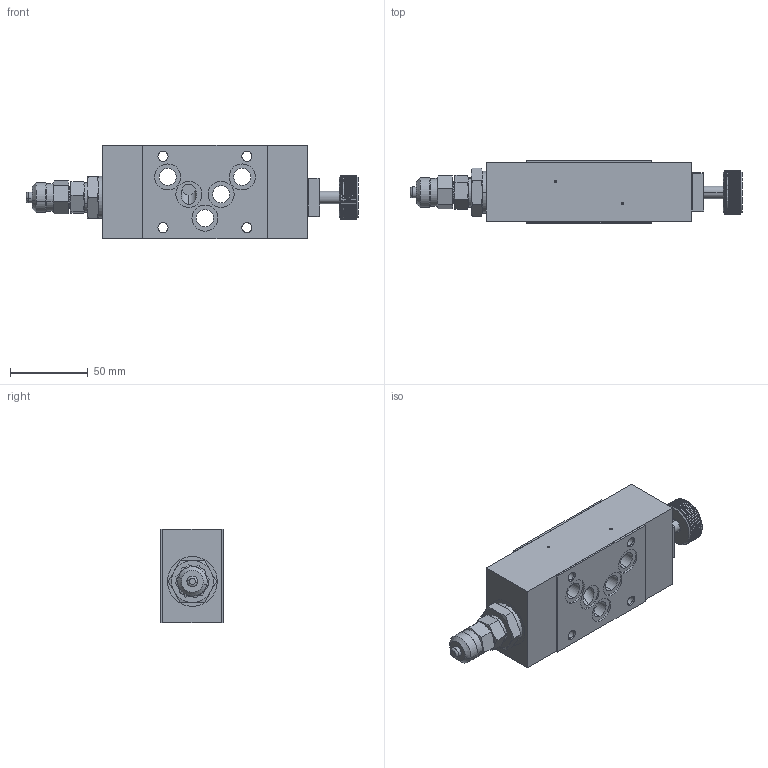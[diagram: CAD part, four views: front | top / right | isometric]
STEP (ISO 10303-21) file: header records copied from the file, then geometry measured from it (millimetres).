
FILE_DESCRIPTION (( 'STEP AP214' ), '1' );
FILE_NAME ('AAHB10_M.STEP', '2017-05-08T12:25:50', ( '' ), ( '' ), 'SwSTEP 2.0', 'SolidWorks 2016', '' );
FILE_SCHEMA (( 'AUTOMOTIVE_DESIGN' ));
Length unit declared in the file: millimetre
Products named in the file (1): AAHB10_M
Bounding box: 213.7 x 40 x 60 mm (x, y, z)
Volume: 312265.4 mm3; surface area: 65979.2 mm2
Topology: 7 solids, 9 shells, 639 faces, 1679 edges, 1072 vertices
Faces by surface type: cylinder 396, plane 155, cone 70, torus 14, sphere 4
Entity records: 28929 total; most frequent: CARTESIAN_POINT 6339, ORIENTED_EDGE 3326, DIRECTION 3115, EDGE_CURVE 1663, AXIS2_PLACEMENT_3D 1224, VERTEX_POINT 1072, EDGE_LOOP 737, LINE 667
